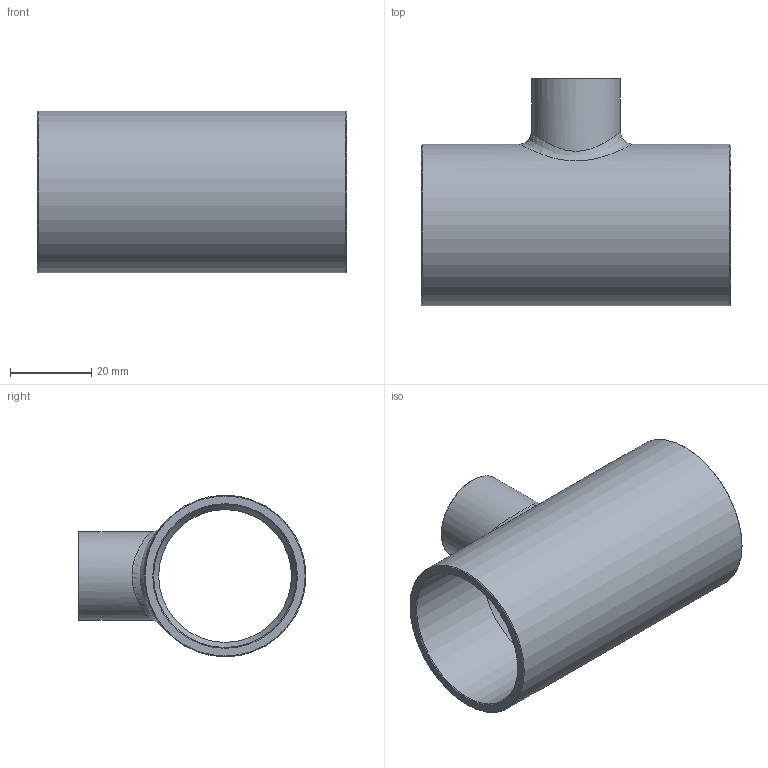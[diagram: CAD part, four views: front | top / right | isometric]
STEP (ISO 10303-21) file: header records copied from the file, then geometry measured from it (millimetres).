
FILE_DESCRIPTION((''),'2;1');
FILE_NAME('G:\SANHA-Ternat\Technik\Management\Bouwmaten + markeringen\z-maattekeningen 3D\29000s\2913013834138_3d.stp','2017-08-03T10:56:40',('vdvijverd'),(''),'Autodesk Inventor 2009','Autodesk Inventor 2009','');
FILE_SCHEMA(('AUTOMOTIVE_DESIGN { 1 0 10303 214 1 1 1 1 }'));
Length unit declared in the file: millimetre
Products named in the file (1): 2913013834138_3d
Bounding box: 76 x 55.95 x 39.7 mm (x, y, z)
Volume: 25048.1 mm3; surface area: 20011.7 mm2
Topology: 1 solids, 1 shells, 21 faces, 48 edges, 29 vertices
Faces by surface type: cone 8, cylinder 6, bspline 4, plane 3
Full cylindrical faces by diameter (mm): 17 x1, 19.17 x1, 21.8 x1, 32.6 x1, 35.105 x1, 39.7 x1
Entity records: 1934 total; most frequent: CARTESIAN_POINT 1548, DIRECTION 76, ORIENTED_EDGE 48, EDGE_LOOP 42, AXIS2_PLACEMENT_3D 38, EDGE_CURVE 24, VERTEX_POINT 22, FACE_OUTER_BOUND 21
